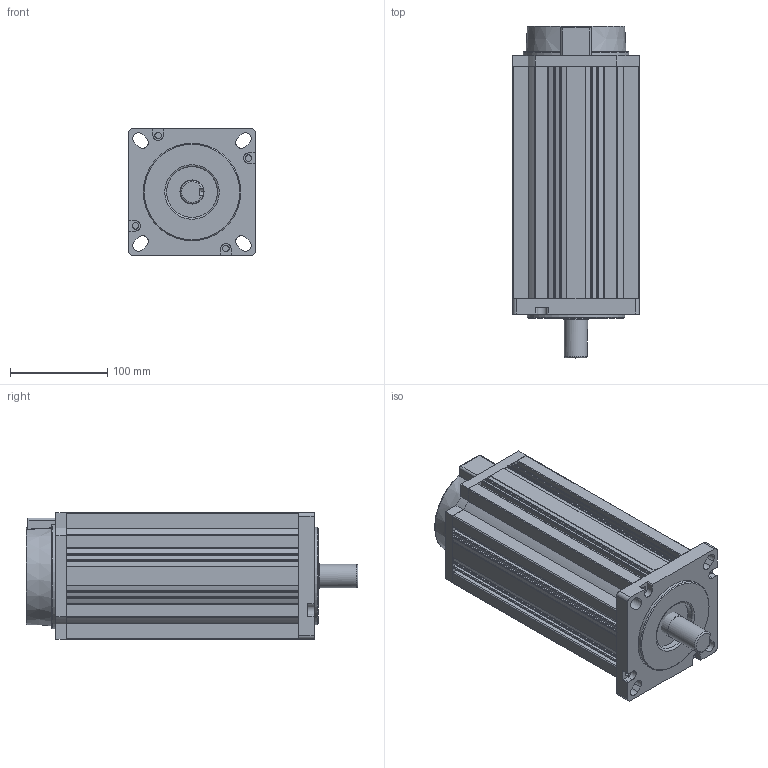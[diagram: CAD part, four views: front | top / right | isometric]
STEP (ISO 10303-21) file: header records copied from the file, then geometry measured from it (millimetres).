
FILE_DESCRIPTION(/* description */ (''),/* implementation_level */ '2;1');
FILE_NAME(/* name */ '130BYG350E-X.stp',/* time_stamp */ '2024-08-16T14:44:27+08:00',/* author */ (''),/* organization */ (''),/* preprocessor_version */ 'ST-DEVELOPER v18.1',/* originating_system */ 'SIEMENS PLM Software NX 2000',/* authorisation */ '');
FILE_SCHEMA (('AUTOMOTIVE_DESIGN { 1 0 10303 214 3 1 1 1 }'));
Length unit declared in the file: millimetre
Products named in the file (1): 925032A4A3696twq
Bounding box: 130 x 341 x 130 mm (x, y, z)
Volume: 4171908.9 mm3; surface area: 316576.6 mm2
Topology: 5 solids, 5 shells, 279 faces, 778 edges, 514 vertices
Faces by surface type: plane 133, cylinder 126, bspline 10, torus 6, cone 2, sphere 2
Full cylindrical faces by diameter (mm): 6.5 x12, 10.5 x4, 24 x1, 24.7 x1, 52 x1, 100 x1
Entity records: 9170 total; most frequent: CARTESIAN_POINT 1892, DIRECTION 1529, ORIENTED_EDGE 1478, EDGE_CURVE 739, AXIS2_PLACEMENT_3D 540, VERTEX_POINT 500, LINE 449, VECTOR 449
